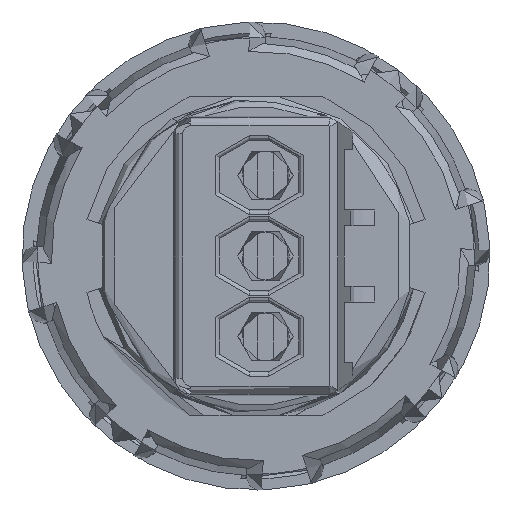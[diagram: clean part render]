
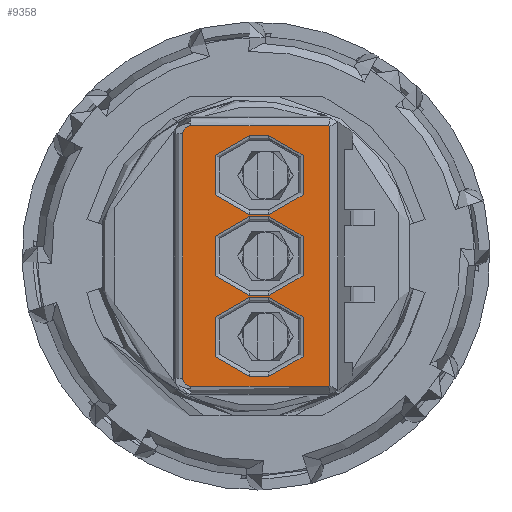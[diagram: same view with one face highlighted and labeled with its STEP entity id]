
A CAD part, front view. The second image highlights one B-rep face of the part: STEP entity #9358.
In plain terms, the highlighted planar face has unit normal (0, -1, 0).
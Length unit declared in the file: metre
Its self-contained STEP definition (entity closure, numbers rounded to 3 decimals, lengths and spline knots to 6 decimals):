
#6278=CARTESIAN_POINT('',(1.689025,0.059879,0.0076));
#6279=VERTEX_POINT('',#6278);
#6288=CARTESIAN_POINT('',(1.690225,0.059879,0.0076));
#6289=VERTEX_POINT('',#6288);
#6292=CARTESIAN_POINT('',(1.684225,0.059879,0.0076));
#6293=DIRECTION('',(1.,0.,0.));
#6294=VECTOR('',#6293,1.);
#6295=LINE('',#6292,#6294);
#6296=EDGE_CURVE('',#6279,#6289,#6295,.T.);
#6319=CARTESIAN_POINT('',(1.690225,0.059879,0.0026));
#6320=VERTEX_POINT('',#6319);
#6323=CARTESIAN_POINT('',(1.690225,0.059879,0.0051));
#6324=DIRECTION('',(0.,-1.,0.));
#6325=DIRECTION('',(0.,0.,-1.));
#6326=AXIS2_PLACEMENT_3D('',#6323,#6324,#6325);
#6327=CIRCLE('',#6326,0.0025);
#6328=EDGE_CURVE('',#6320,#6289,#6327,.T.);
#6355=CARTESIAN_POINT('',(1.689025,0.059879,0.0026));
#6356=VERTEX_POINT('',#6355);
#6359=CARTESIAN_POINT('',(1.684225,0.059879,0.0026));
#6360=DIRECTION('',(1.,0.,0.));
#6361=VECTOR('',#6360,1.);
#6362=LINE('',#6359,#6361);
#6363=EDGE_CURVE('',#6356,#6320,#6362,.T.);
#6384=CARTESIAN_POINT('',(1.689025,0.059879,0.0051));
#6385=DIRECTION('',(0.,-1.,0.));
#6386=DIRECTION('',(0.,0.,-1.));
#6387=AXIS2_PLACEMENT_3D('',#6384,#6385,#6386);
#6388=CIRCLE('',#6387,0.0025);
#6389=EDGE_CURVE('',#6279,#6356,#6388,.T.);
#6566=CARTESIAN_POINT('',(1.685308,0.059879,0.008217));
#6567=VERTEX_POINT('',#6566);
#6570=CARTESIAN_POINT('',(1.685312,0.059879,0.008217));
#6571=DIRECTION('',(1.,0.,0.));
#6572=VECTOR('',#6571,1.);
#6573=LINE('',#6570,#6572);
#6574=CARTESIAN_POINT('',(1.69399,0.059879,0.008217));
#6575=VERTEX_POINT('',#6574);
#6576=EDGE_CURVE('',#6567,#6575,#6573,.T.);
#6605=CARTESIAN_POINT('',(1.689425,0.059879,0.));
#6606=DIRECTION('',(0.,-1.,0.));
#6607=DIRECTION('',(0.,0.,-1.));
#6608=AXIS2_PLACEMENT_3D('',#6605,#6606,#6607);
#6609=CIRCLE('',#6608,0.0094);
#6610=CARTESIAN_POINT('',(1.69408,0.059879,0.008167));
#6611=VERTEX_POINT('',#6610);
#6612=EDGE_CURVE('',#6611,#6575,#6609,.T.);
#8424=CARTESIAN_POINT('',(1.685308,0.059879,-0.008217));
#8425=VERTEX_POINT('',#8424);
#8436=CARTESIAN_POINT('',(1.69399,0.059879,-0.008217));
#8437=VERTEX_POINT('',#8436);
#8440=CARTESIAN_POINT('',(1.685312,0.059879,-0.008217));
#8441=DIRECTION('',(1.,0.,0.));
#8442=VECTOR('',#8441,1.);
#8443=LINE('',#8440,#8442);
#8444=EDGE_CURVE('',#8425,#8437,#8443,.T.);
#8488=CARTESIAN_POINT('',(1.69408,0.059879,-0.008167));
#8489=VERTEX_POINT('',#8488);
#8492=CARTESIAN_POINT('',(1.689425,0.059879,0.));
#8493=DIRECTION('',(0.,1.,0.));
#8494=DIRECTION('',(0.,0.,1.));
#8495=AXIS2_PLACEMENT_3D('',#8492,#8493,#8494);
#8496=CIRCLE('',#8495,0.0094);
#8497=EDGE_CURVE('',#8489,#8437,#8496,.T.);
#8590=CARTESIAN_POINT('',(1.69408,0.059879,-0.008478));
#8591=DIRECTION('',(0.,0.,1.));
#8592=VECTOR('',#8591,1.);
#8593=LINE('',#8590,#8592);
#8594=EDGE_CURVE('',#8489,#6611,#8593,.T.);
#8618=CARTESIAN_POINT('',(1.689025,0.059879,-0.0076));
#8619=VERTEX_POINT('',#8618);
#8624=CARTESIAN_POINT('',(1.684225,0.059879,-0.0076));
#8625=DIRECTION('',(1.,0.,0.));
#8626=VECTOR('',#8625,1.);
#8627=LINE('',#8624,#8626);
#8628=CARTESIAN_POINT('',(1.690225,0.059879,-0.0076));
#8629=VERTEX_POINT('',#8628);
#8630=EDGE_CURVE('',#8619,#8629,#8627,.T.);
#8873=CARTESIAN_POINT('',(1.690225,0.059879,-0.0026));
#8874=VERTEX_POINT('',#8873);
#8879=CARTESIAN_POINT('',(1.690225,0.059879,-0.0051));
#8880=DIRECTION('',(0.,1.,0.));
#8881=DIRECTION('',(0.,0.,1.));
#8882=AXIS2_PLACEMENT_3D('',#8879,#8880,#8881);
#8883=CIRCLE('',#8882,0.0025);
#8884=EDGE_CURVE('',#8874,#8629,#8883,.T.);
#8903=CARTESIAN_POINT('',(1.684225,0.059879,-0.0026));
#8904=DIRECTION('',(1.,0.,0.));
#8905=VECTOR('',#8904,1.);
#8906=LINE('',#8903,#8905);
#8907=CARTESIAN_POINT('',(1.689025,0.059879,-0.0026));
#8908=VERTEX_POINT('',#8907);
#8909=EDGE_CURVE('',#8908,#8874,#8906,.T.);
#8936=CARTESIAN_POINT('',(1.689025,0.059879,-0.0051));
#8937=DIRECTION('',(0.,1.,0.));
#8938=DIRECTION('',(0.,0.,1.));
#8939=AXIS2_PLACEMENT_3D('',#8936,#8937,#8938);
#8940=CIRCLE('',#8939,0.0025);
#8941=EDGE_CURVE('',#8619,#8908,#8940,.T.);
#8966=CARTESIAN_POINT('',(1.690225,0.059879,-0.0025));
#8967=VERTEX_POINT('',#8966);
#8985=CARTESIAN_POINT('',(1.689025,0.059879,-0.0025));
#8986=VERTEX_POINT('',#8985);
#8989=CARTESIAN_POINT('',(1.690225,0.059879,-0.0025));
#8990=DIRECTION('',(-1.,0.,0.));
#8991=VECTOR('',#8990,1.);
#8992=LINE('',#8989,#8991);
#8993=EDGE_CURVE('',#8967,#8986,#8992,.T.);
#9222=CARTESIAN_POINT('',(1.689025,0.059879,0.0025));
#9223=VERTEX_POINT('',#9222);
#9226=CARTESIAN_POINT('',(1.689025,0.059879,0.));
#9227=DIRECTION('',(0.,1.,0.));
#9228=DIRECTION('',(0.,0.,1.));
#9229=AXIS2_PLACEMENT_3D('',#9226,#9227,#9228);
#9230=CIRCLE('',#9229,0.0025);
#9231=EDGE_CURVE('',#8986,#9223,#9230,.T.);
#9255=CARTESIAN_POINT('',(1.690225,0.059879,0.0025));
#9256=VERTEX_POINT('',#9255);
#9259=CARTESIAN_POINT('',(1.690225,0.059879,0.0025));
#9260=DIRECTION('',(-1.,0.,0.));
#9261=VECTOR('',#9260,1.);
#9262=LINE('',#9259,#9261);
#9263=EDGE_CURVE('',#9256,#9223,#9262,.T.);
#9283=CARTESIAN_POINT('',(1.690225,0.059879,0.));
#9284=DIRECTION('',(0.,1.,0.));
#9285=DIRECTION('',(0.,0.,1.));
#9286=AXIS2_PLACEMENT_3D('',#9283,#9284,#9285);
#9287=CIRCLE('',#9286,0.0025);
#9288=EDGE_CURVE('',#9256,#8967,#9287,.T.);
#9304=CARTESIAN_POINT('',(1.684225,0.059879,0.0088));
#9305=DIRECTION('',(0.,-1.,0.));
#9306=DIRECTION('',(0.,0.,-1.));
#9307=AXIS2_PLACEMENT_3D('',#9304,#9305,#9306);
#9308=PLANE('',#9307);
#9309=ORIENTED_EDGE('',*,*,#9288,.T.);
#9310=ORIENTED_EDGE('',*,*,#8993,.T.);
#9311=ORIENTED_EDGE('',*,*,#9231,.T.);
#9312=ORIENTED_EDGE('',*,*,#9263,.F.);
#9313=EDGE_LOOP('',(#9309,#9310,#9311,#9312));
#9314=FACE_BOUND('',#9313,.T.);
#9315=ORIENTED_EDGE('',*,*,#8941,.T.);
#9316=ORIENTED_EDGE('',*,*,#8909,.T.);
#9317=ORIENTED_EDGE('',*,*,#8884,.T.);
#9318=ORIENTED_EDGE('',*,*,#8630,.F.);
#9319=EDGE_LOOP('',(#9315,#9316,#9317,#9318));
#9320=FACE_BOUND('',#9319,.T.);
#9321=ORIENTED_EDGE('',*,*,#8594,.T.);
#9322=ORIENTED_EDGE('',*,*,#6612,.T.);
#9323=ORIENTED_EDGE('',*,*,#6576,.F.);
#9324=CARTESIAN_POINT('',(1.685308,0.059879,0.007717));
#9325=DIRECTION('',(0.,-1.,0.));
#9326=DIRECTION('',(0.707,0.,-0.707));
#9327=AXIS2_PLACEMENT_3D('',#9324,#9325,#9326);
#9328=ELLIPSE('',#9327,0.0005,0.0005);
#9329=CARTESIAN_POINT('',(1.684808,0.059879,0.007717));
#9330=VERTEX_POINT('',#9329);
#9331=EDGE_CURVE('',#6567,#9330,#9328,.T.);
#9332=ORIENTED_EDGE('',*,*,#9331,.T.);
#9333=CARTESIAN_POINT('',(1.684808,0.059879,0.007713));
#9334=DIRECTION('',(0.,0.,-1.));
#9335=VECTOR('',#9334,1.);
#9336=LINE('',#9333,#9335);
#9337=CARTESIAN_POINT('',(1.684808,0.059879,-0.007717));
#9338=VERTEX_POINT('',#9337);
#9339=EDGE_CURVE('',#9330,#9338,#9336,.T.);
#9340=ORIENTED_EDGE('',*,*,#9339,.T.);
#9341=CARTESIAN_POINT('',(1.685308,0.059879,-0.007717));
#9342=DIRECTION('',(0.,1.,0.));
#9343=DIRECTION('',(0.707,0.,0.707));
#9344=AXIS2_PLACEMENT_3D('',#9341,#9342,#9343);
#9345=ELLIPSE('',#9344,0.0005,0.0005);
#9346=EDGE_CURVE('',#8425,#9338,#9345,.T.);
#9347=ORIENTED_EDGE('',*,*,#9346,.F.);
#9348=ORIENTED_EDGE('',*,*,#8444,.T.);
#9349=ORIENTED_EDGE('',*,*,#8497,.F.);
#9350=EDGE_LOOP('',(#9321,#9322,#9323,#9332,#9340,#9347,#9348,#9349));
#9351=FACE_BOUND('',#9350,.T.);
#9352=ORIENTED_EDGE('',*,*,#6389,.F.);
#9353=ORIENTED_EDGE('',*,*,#6296,.T.);
#9354=ORIENTED_EDGE('',*,*,#6328,.F.);
#9355=ORIENTED_EDGE('',*,*,#6363,.F.);
#9356=EDGE_LOOP('',(#9352,#9353,#9354,#9355));
#9357=FACE_BOUND('',#9356,.T.);
#9358=ADVANCED_FACE('',(#9314,#9320,#9351,#9357),#9308,.T.);
